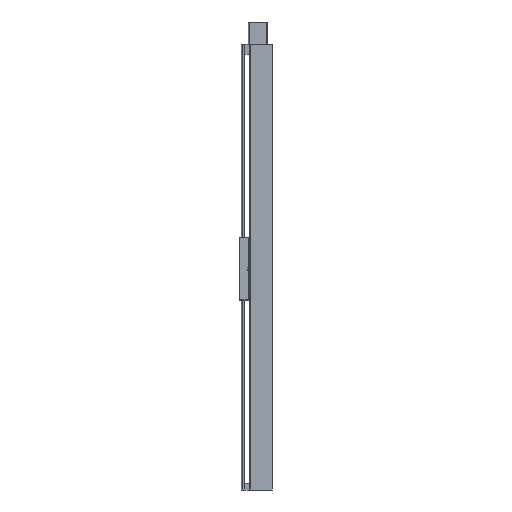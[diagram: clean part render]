
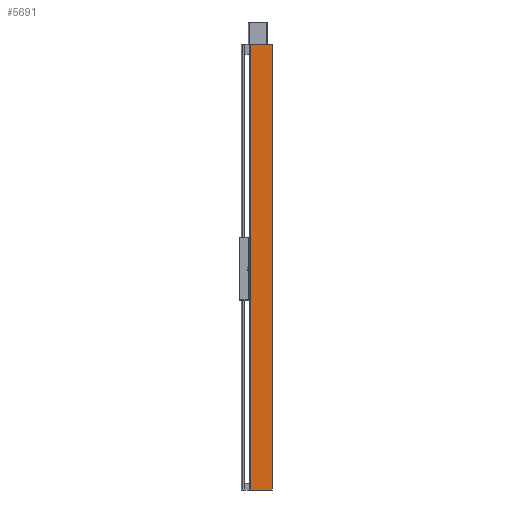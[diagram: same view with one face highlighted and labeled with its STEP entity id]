
A CAD part, left-side view. The second image highlights one B-rep face of the part: STEP entity #5691.
In plain terms, the highlighted planar face has unit normal (-1, 0, 0).
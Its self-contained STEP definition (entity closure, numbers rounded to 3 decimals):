
#1937=CARTESIAN_POINT('',(-68.,65.5,1295.0));
#1938=VERTEX_POINT('',#1937);
#1946=CARTESIAN_POINT('',(-68.0,0.5,1295.0));
#1947=VERTEX_POINT('',#1946);
#1948=CARTESIAN_POINT('',(-68.0,0.5,1295.0));
#1949=DIRECTION('',(0.0,1.0,0.0));
#1950=VECTOR('',#1949,65.0);
#1951=LINE('',#1948,#1950);
#1952=EDGE_CURVE('',#1947,#1938,#1951,.T.);
#4946=CARTESIAN_POINT('',(-68.0,0.5,-20.0));
#4947=VERTEX_POINT('',#4946);
#4956=CARTESIAN_POINT('',(-68.,65.5,-20.0));
#4957=VERTEX_POINT('',#4956);
#4958=CARTESIAN_POINT('',(-68.,65.5,-20.0));
#4959=DIRECTION('',(0.0,-1.0,0.0));
#4960=VECTOR('',#4959,65.0);
#4961=LINE('',#4958,#4960);
#4962=EDGE_CURVE('',#4957,#4947,#4961,.T.);
#5640=CARTESIAN_POINT('',(-68.0,0.5,-20.0));
#5641=DIRECTION('',(0.0,0.0,1.0));
#5642=VECTOR('',#5641,1315.0);
#5643=LINE('',#5640,#5642);
#5644=EDGE_CURVE('',#4947,#1947,#5643,.T.);
#5675=CARTESIAN_POINT('',(-68.0,0.5,0.0));
#5676=DIRECTION('',(-1.0,0.0,0.0));
#5677=DIRECTION('',(0.0,0.0,1.0));
#5678=AXIS2_PLACEMENT_3D('',#5675,#5676,#5677);
#5679=PLANE('',#5678);
#5680=CARTESIAN_POINT('',(-68.,65.5,-20.0));
#5681=DIRECTION('',(0.0,0.0,1.0));
#5682=VECTOR('',#5681,1315.0);
#5683=LINE('',#5680,#5682);
#5684=EDGE_CURVE('',#4957,#1938,#5683,.T.);
#5685=ORIENTED_EDGE('',*,*,#5684,.F.);
#5686=ORIENTED_EDGE('',*,*,#4962,.T.);
#5687=ORIENTED_EDGE('',*,*,#5644,.T.);
#5688=ORIENTED_EDGE('',*,*,#1952,.T.);
#5689=EDGE_LOOP('',(#5685,#5686,#5687,#5688));
#5690=FACE_OUTER_BOUND('',#5689,.T.);
#5691=ADVANCED_FACE('',(#5690),#5679,.T.);
